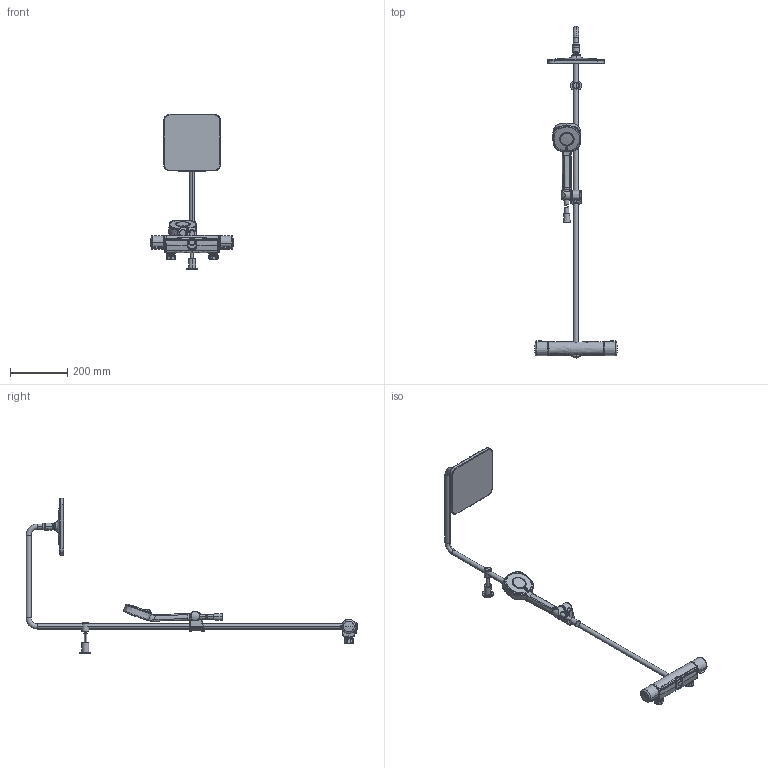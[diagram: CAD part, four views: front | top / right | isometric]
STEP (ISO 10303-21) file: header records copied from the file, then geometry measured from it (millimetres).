
FILE_DESCRIPTION (( 'STEP AP203' ), '1' );
FILE_NAME ('7403(2021).STEP', '2020-12-15T07:11:34', ( '' ), ( '' ), 'SwSTEP 2.0', 'SolidWorks 2016', '' );
FILE_SCHEMA (( 'CONFIG_CONTROL_DESIGN' ));
Length unit declared in the file: millimetre
Products named in the file (1): 7403(2021)
Bounding box: 289.92 x 1162.4 x 545.47 mm (x, y, z)
Volume: 1898363 mm3; surface area: 407670.2 mm2
Topology: 26 solids, 26 shells, 914 faces, 2106 edges, 1252 vertices
Faces by surface type: bspline 412, cylinder 197, plane 120, torus 77, cone 72, sphere 36
Entity records: 83610 total; most frequent: CARTESIAN_POINT 66411, ORIENTED_EDGE 4180, DIRECTION 2667, EDGE_CURVE 2090, VERTEX_POINT 1250, AXIS2_PLACEMENT_3D 1175, B_SPLINE_CURVE_WITH_KNOTS 984, EDGE_LOOP 938
